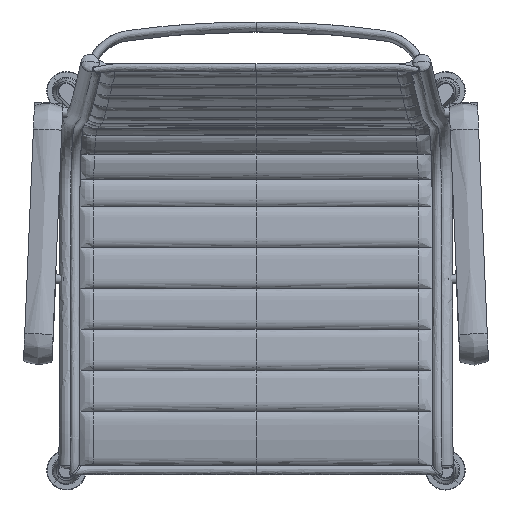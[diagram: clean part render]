
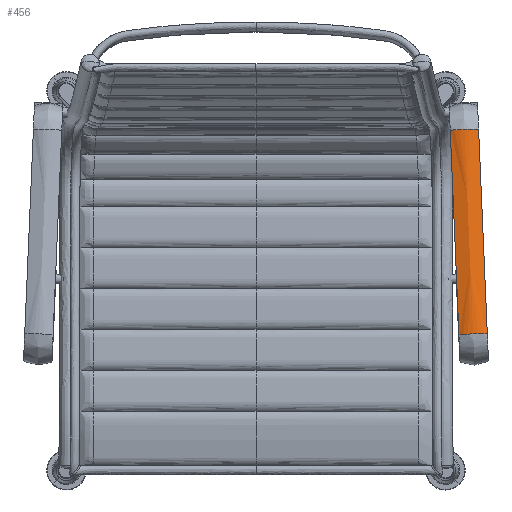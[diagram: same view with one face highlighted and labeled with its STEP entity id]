
A CAD part, top view. The second image highlights one B-rep face of the part: STEP entity #456.
In plain terms, the highlighted free-form (B-spline) face has degree [3, 2] with [4, 3] control points.
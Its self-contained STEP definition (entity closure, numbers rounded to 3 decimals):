
#456=ADVANCED_FACE('',(#903),#6481,.T.);
#903=FACE_OUTER_BOUND('',#1353,.T.);
#1353=EDGE_LOOP('',(#2602,#2603,#2604,#2605));
#2602=ORIENTED_EDGE('',*,*,#4103,.T.);
#2603=ORIENTED_EDGE('',*,*,#4104,.T.);
#2604=ORIENTED_EDGE('',*,*,#4105,.T.);
#2605=ORIENTED_EDGE('',*,*,#4101,.F.);
#4101=EDGE_CURVE('',#6023,#6024,#5464,.T.);
#4103=EDGE_CURVE('',#6023,#6025,#5466,.T.);
#4104=EDGE_CURVE('',#6025,#6026,#5467,.T.);
#4105=EDGE_CURVE('',#6026,#6024,#5468,.T.);
#5464=(
BOUNDED_CURVE()
B_SPLINE_CURVE(2,(#11386,#11387,#11388),.UNSPECIFIED.,.F.,.F.)
B_SPLINE_CURVE_WITH_KNOTS((3,3),(0.,37.482),.UNSPECIFIED.)
CURVE()
GEOMETRIC_REPRESENTATION_ITEM()
RATIONAL_B_SPLINE_CURVE((1.,0.882,1.))
REPRESENTATION_ITEM('')
);
#5466=(
BOUNDED_CURVE()
B_SPLINE_CURVE(3,(#11400,#11401,#11402,#11403),.UNSPECIFIED.,.F.,.F.)
B_SPLINE_CURVE_WITH_KNOTS((4,4),(0.,260.717),.UNSPECIFIED.)
CURVE()
GEOMETRIC_REPRESENTATION_ITEM()
RATIONAL_B_SPLINE_CURVE((1.,1.,1.,1.))
REPRESENTATION_ITEM('')
);
#5467=(
BOUNDED_CURVE()
B_SPLINE_CURVE(2,(#11404,#11405,#11406),.UNSPECIFIED.,.F.,.F.)
B_SPLINE_CURVE_WITH_KNOTS((3,3),(0.,37.482),.UNSPECIFIED.)
CURVE()
GEOMETRIC_REPRESENTATION_ITEM()
RATIONAL_B_SPLINE_CURVE((1.,0.882,1.))
REPRESENTATION_ITEM('')
);
#5468=(
BOUNDED_CURVE()
B_SPLINE_CURVE(3,(#11407,#11408,#11409,#11410),.UNSPECIFIED.,.F.,.F.)
B_SPLINE_CURVE_WITH_KNOTS((4,4),(-260.717,0.),.UNSPECIFIED.)
CURVE()
GEOMETRIC_REPRESENTATION_ITEM()
RATIONAL_B_SPLINE_CURVE((1.,1.,1.,1.))
REPRESENTATION_ITEM('')
);
#6023=VERTEX_POINT('',#11158);
#6024=VERTEX_POINT('',#11159);
#6025=VERTEX_POINT('',#11160);
#6026=VERTEX_POINT('',#11161);
#6481=(
BOUNDED_SURFACE()
B_SPLINE_SURFACE(3,2,((#10890,#10891,#10892),(#10893,#10894,#10895),(#10896,
#10897,#10898),(#10899,#10900,#10901)),.UNSPECIFIED.,.F.,.F.,.F.)
B_SPLINE_SURFACE_WITH_KNOTS((4,4),(3,3),(0.,260.717),(0.,37.482),
 .UNSPECIFIED.)
GEOMETRIC_REPRESENTATION_ITEM()
RATIONAL_B_SPLINE_SURFACE(((1.,0.882,1.),(1.,0.882,
1.),(1.,0.882,1.),(1.,0.882,1.)))
REPRESENTATION_ITEM('')
SURFACE()
);
#10890=CARTESIAN_POINT('',(293.384,-68.132,687.235));
#10891=CARTESIAN_POINT('',(275.382,-68.057,696.832));
#10892=CARTESIAN_POINT('',(257.416,-69.653,687.301));
#10893=CARTESIAN_POINT('',(289.712,18.366,679.67));
#10894=CARTESIAN_POINT('',(271.711,18.441,689.267));
#10895=CARTESIAN_POINT('',(253.744,16.845,679.737));
#10896=CARTESIAN_POINT('',(286.041,104.864,672.105));
#10897=CARTESIAN_POINT('',(268.039,104.939,681.702));
#10898=CARTESIAN_POINT('',(250.073,103.343,672.172));
#10899=CARTESIAN_POINT('',(282.369,191.362,664.541));
#10900=CARTESIAN_POINT('',(264.367,191.437,674.137));
#10901=CARTESIAN_POINT('',(246.401,189.841,664.607));
#11158=CARTESIAN_POINT('',(293.384,-68.132,687.235));
#11159=CARTESIAN_POINT('',(257.416,-69.653,687.301));
#11160=CARTESIAN_POINT('',(282.369,191.362,664.541));
#11161=CARTESIAN_POINT('',(246.401,189.841,664.607));
#11386=CARTESIAN_POINT('',(293.384,-68.132,687.235));
#11387=CARTESIAN_POINT('',(275.382,-68.057,696.832));
#11388=CARTESIAN_POINT('',(257.416,-69.653,687.301));
#11400=CARTESIAN_POINT('',(293.384,-68.132,687.235));
#11401=CARTESIAN_POINT('',(289.712,18.366,679.67));
#11402=CARTESIAN_POINT('',(286.041,104.864,672.105));
#11403=CARTESIAN_POINT('',(282.369,191.362,664.541));
#11404=CARTESIAN_POINT('',(282.369,191.362,664.541));
#11405=CARTESIAN_POINT('',(264.367,191.437,674.137));
#11406=CARTESIAN_POINT('',(246.401,189.841,664.607));
#11407=CARTESIAN_POINT('',(246.401,189.841,664.607));
#11408=CARTESIAN_POINT('',(250.073,103.343,672.172));
#11409=CARTESIAN_POINT('',(253.744,16.845,679.737));
#11410=CARTESIAN_POINT('',(257.416,-69.653,687.301));
